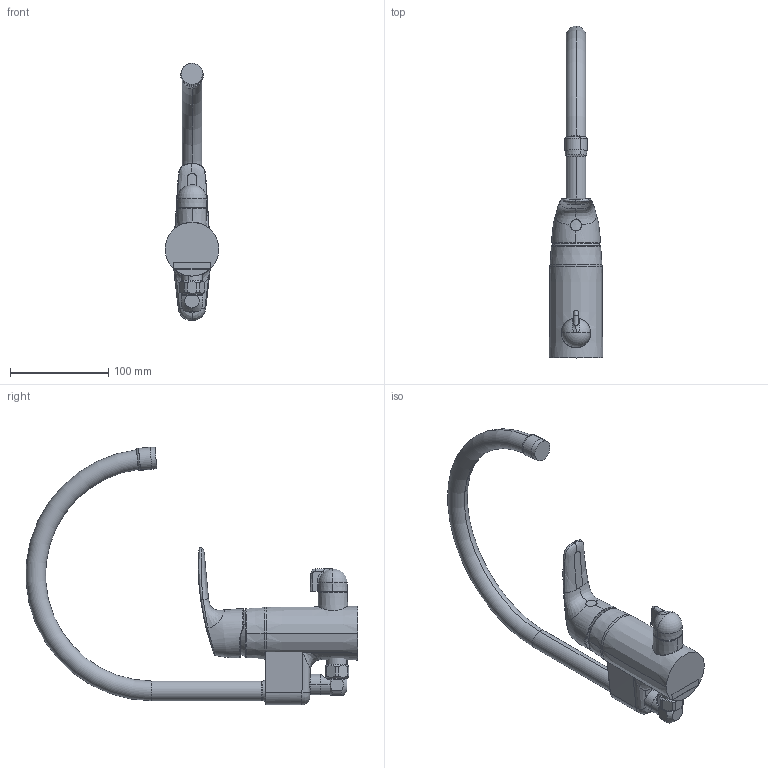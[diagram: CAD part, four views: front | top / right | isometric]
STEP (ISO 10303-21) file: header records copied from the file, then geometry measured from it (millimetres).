
FILE_DESCRIPTION (( 'STEP AP203' ), '1' );
FILE_NAME ('1057F(2020).STEP', '2020-01-03T08:52:17', ( '' ), ( '' ), 'SwSTEP 2.0', 'SolidWorks 2016', '' );
FILE_SCHEMA (( 'CONFIG_CONTROL_DESIGN' ));
Length unit declared in the file: millimetre
Products named in the file (1): 1057F(2020)
Bounding box: 54.6 x 337.21 x 261.47 mm (x, y, z)
Volume: 661754.5 mm3; surface area: 102508.2 mm2
Topology: 11 solids, 11 shells, 186 faces, 429 edges, 266 vertices
Faces by surface type: bspline 59, plane 40, cylinder 40, cone 29, torus 18
Entity records: 20595 total; most frequent: CARTESIAN_POINT 16841, ORIENTED_EDGE 842, DIRECTION 626, EDGE_CURVE 421, AXIS2_PLACEMENT_3D 274, VERTEX_POINT 266, EDGE_LOOP 195, FACE_OUTER_BOUND 186
